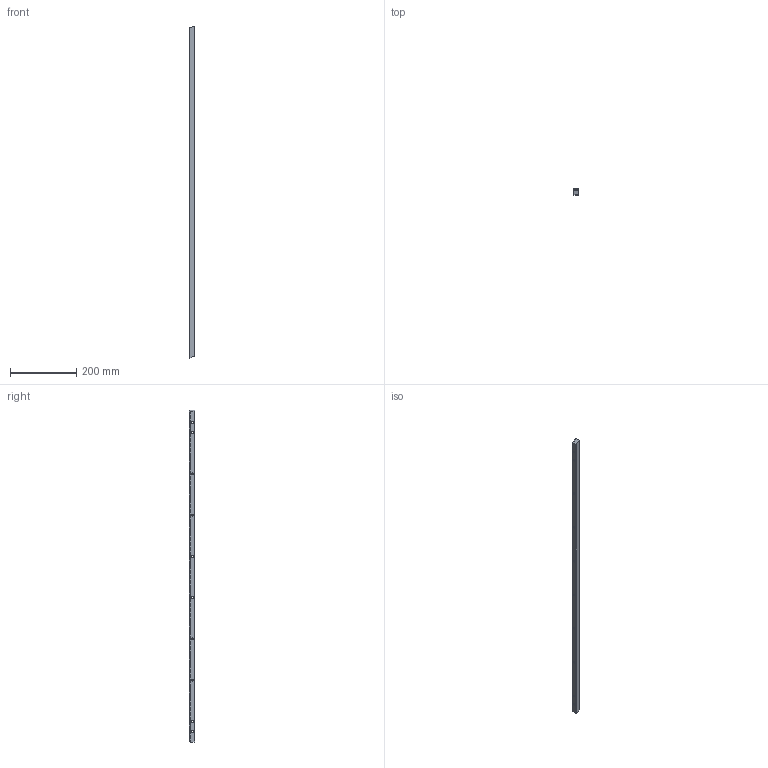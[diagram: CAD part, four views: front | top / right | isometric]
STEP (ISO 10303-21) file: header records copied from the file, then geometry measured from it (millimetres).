
FILE_DESCRIPTION (( 'STEP AP214' ), '1' );
FILE_NAME ('74020012 GHFH-15-10-10.STEP', '2020-08-03T21:25:56', ( '' ), ( '' ), 'SwSTEP 2.0', 'SolidWorks 2020', '' );
FILE_SCHEMA (( 'AUTOMOTIVE_DESIGN' ));
Length unit declared in the file: millimetre
Products named in the file (1): 74020012 GHFH-15-10-10
Bounding box: 17 x 17 x 1006.03 mm (x, y, z)
Volume: 253015.4 mm3; surface area: 82978.9 mm2
Topology: 1 solids, 1 shells, 1234 faces, 3672 edges, 2448 vertices
Faces by surface type: plane 1015, bspline 201, cylinder 18
Full cylindrical faces by diameter (mm): 5.7 x2, 6 x8, 9.5 x8
Entity records: 41521 total; most frequent: CARTESIAN_POINT 8744, ORIENTED_EDGE 7308, DIRECTION 6160, EDGE_CURVE 3654, VECTOR 3216, LINE 3216, VERTEX_POINT 2448, AXIS2_PLACEMENT_3D 1472
